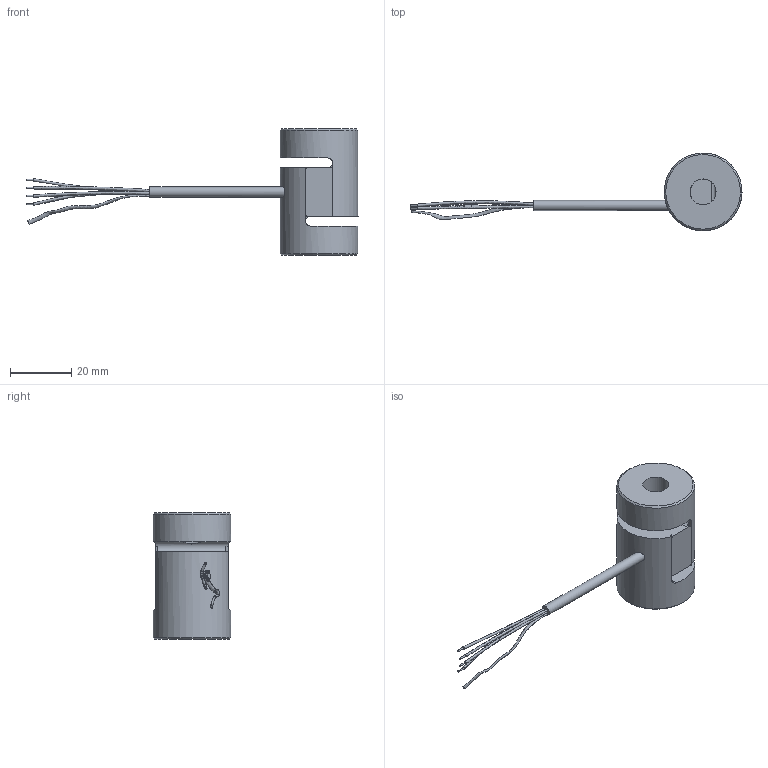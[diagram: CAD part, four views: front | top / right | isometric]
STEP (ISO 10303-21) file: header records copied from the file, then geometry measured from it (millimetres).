
FILE_DESCRIPTION (( 'STEP AP203' ), '1' );
FILE_NAME ('83560.STEP', '2022-08-05T13:25:54', ( '' ), ( '' ), 'SwSTEP 2.0', 'SolidWorks 2021', '' );
FILE_SCHEMA (( 'CONFIG_CONTROL_DESIGN' ));
Length unit declared in the file: inch
Products named in the file (1): 83560
Bounding box: 108.46 x 25.38 x 41.27 mm (x, y, z)
Volume: 17842.9 mm3; surface area: 7068.2 mm2
Topology: 1 solids, 3 shells, 77 faces, 192 edges, 128 vertices
Faces by surface type: plane 42, cylinder 27, bspline 5, cone 3
Full cylindrical faces by diameter (mm): 0.508 x4, 3.302 x1, 8.433 x2, 25.4 x2
Entity records: 2709 total; most frequent: CARTESIAN_POINT 894, DIRECTION 360, ORIENTED_EDGE 336, EDGE_CURVE 168, AXIS2_PLACEMENT_3D 135, VERTEX_POINT 120, EDGE_LOOP 104, FACE_OUTER_BOUND 91
